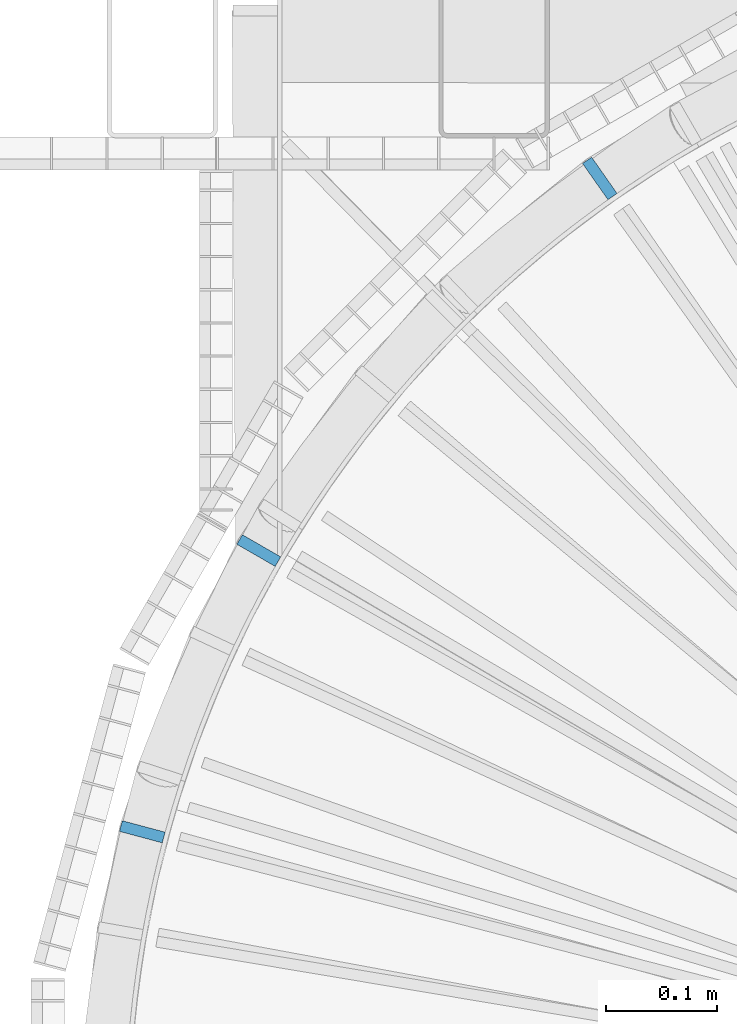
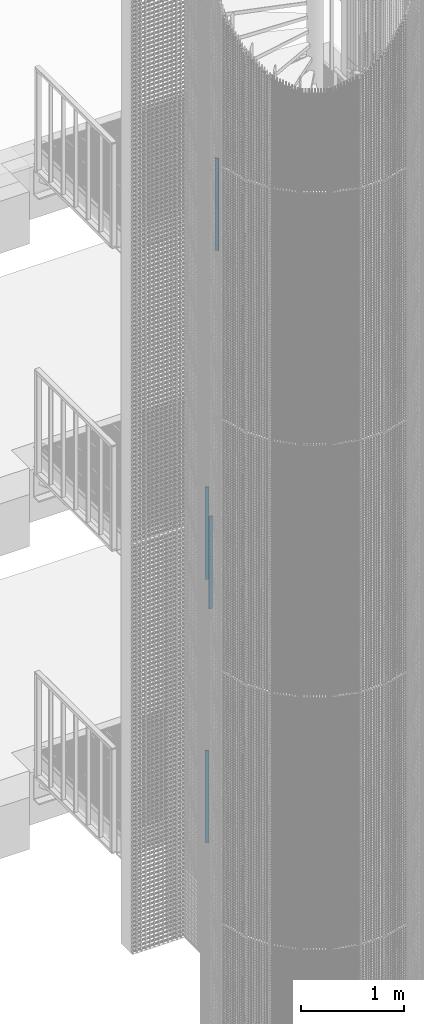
# One storey, part 44 of 1148: 4 columns, 4 elements without a shape of their own.
"""IFC2X3 building model written with IfcOpenShell, lengths in millimetres."""

from ifc_helpers import new_model, si_unit, frame, origin_with_axes, origin_2d_with_axis, place, context, subcontext, project, spatial, rectangle, extrude, material, type_object, element, aggregate, save


model = new_model("IFC2X3")

# Units and contexts
model_context = context("Model", 3, precision=1e-05, world=origin_with_axes())
body_context = subcontext(model_context, "Body", "Model", "MODEL_VIEW")
ifc_project = project(units=[si_unit("LENGTHUNIT", "METRE", prefix="MILLI"), si_unit("AREAUNIT", "SQUARE_METRE"), si_unit("VOLUMEUNIT", "CUBIC_METRE"), si_unit("MASSUNIT", "GRAM", prefix="KILO"), si_unit("TIMEUNIT", "SECOND"), si_unit("PLANEANGLEUNIT", "RADIAN"), si_unit("SOLIDANGLEUNIT", "STERADIAN"), si_unit("THERMODYNAMICTEMPERATUREUNIT", "DEGREE_CELSIUS"), si_unit("LUMINOUSINTENSITYUNIT", "LUMEN")], contexts=[model_context])

# Site, building, storey
site_placement = place(None, origin_with_axes())
site = spatial("IfcSite", under=ifc_project, at=site_placement, Name="Undefined", CompositionType="ELEMENT")
building_placement = place(site_placement, origin_with_axes())
building = spatial("IfcBuilding", under=site, at=building_placement, Name="Undefined", CompositionType="ELEMENT")
storey_placement = place(building_placement, origin_with_axes())
storey = spatial("IfcBuildingStorey", under=building, at=storey_placement, Name="Undefined", CompositionType="ELEMENT", Elevation=0.0)

# Assembly, column
assembly_1_placement = place(storey_placement, origin_with_axes())
assembly_1 = element("IfcElementAssembly", 1, at=assembly_1_placement, inside=storey, Name="MONTANT", AssemblyPlace="NOTDEFINED", PredefinedType="NOTDEFINED")
ifc_material = material(Name="STEEL/S235JR")
column_type = type_object("IfcColumnType", Name="PL10*40", PredefinedType="NOTDEFINED")
column_1_placement = place(assembly_1_placement, frame((20995.4504360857, 863.38625468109, 13220.4), z_axis=(0.0, 0.0, 1.0), x_axis=(0.573576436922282, -0.819152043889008, 0.0)))
column_1 = element("IfcColumn", 2, at=column_1_placement, type_object=column_type, material=ifc_material, Name="MONTANT", context=body_context, shape_type="SweptSolid", body=[
    extrude(rectangle(XDim=10.0, YDim=40.0, at=origin_2d_with_axis()), frame((0.0, 0.0, 1100.0), z_axis=(0.0, 0.0, -1.0), x_axis=(0.0, 1.0, 0.0)), (0.0, 0.0, 1.0), 1100.0),
])
aggregate(assembly_1, [column_1])

assembly_2_placement = place(storey_placement, origin_with_axes())
assembly_2 = element("IfcElementAssembly", 3, at=assembly_2_placement, inside=storey, Name="MONTANT", AssemblyPlace="NOTDEFINED", PredefinedType="NOTDEFINED")
column_2_placement = place(assembly_2_placement, frame((20687.2092244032, 527.000000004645, 9620.40000000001), z_axis=(0.0, 0.0, 1.0), x_axis=(0.866025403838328, -0.49999999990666, 0.0)))
column_2 = element("IfcColumn", 4, at=column_2_placement, type_object=column_type, material=ifc_material, Name="MONTANT", context=body_context, shape_type="SweptSolid", body=[
    extrude(rectangle(XDim=10.0, YDim=40.0, at=origin_2d_with_axis()), frame((0.0, 0.0, 1100.0), z_axis=(0.0, 0.0, -1.0), x_axis=(0.0, 1.0, 0.0)), (0.0, 0.0, 1.0), 1100.0),
])
aggregate(assembly_2, [column_2])

assembly_3_placement = place(storey_placement, origin_with_axes())
assembly_3 = element("IfcElementAssembly", 5, at=assembly_3_placement, inside=storey, Name="MONTANT", AssemblyPlace="NOTDEFINED", PredefinedType="NOTDEFINED")
column_3_placement = place(assembly_3_placement, frame((20581.9141790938, 272.795273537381, 9463.88000000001), z_axis=(0.0, 0.0, 1.0), x_axis=(0.965925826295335, -0.258819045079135, 0.0)))
column_3 = element("IfcColumn", 6, at=column_3_placement, type_object=column_type, material=ifc_material, Name="MONTANT", context=body_context, shape_type="SweptSolid", body=[
    extrude(rectangle(XDim=10.0, YDim=40.0, at=origin_2d_with_axis()), frame((0.0, 0.0, 1100.0), z_axis=(0.0, 0.0, -1.0), x_axis=(0.0, 1.0, 0.0)), (0.0, 0.0, 1.0), 1100.0),
])
aggregate(assembly_3, [column_3])

assembly_4_placement = place(storey_placement, origin_with_axes())
assembly_4 = element("IfcElementAssembly", 7, at=assembly_4_placement, inside=storey, Name="MONTANT", AssemblyPlace="NOTDEFINED", PredefinedType="NOTDEFINED")
column_4_placement = place(assembly_4_placement, frame((20687.2092244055, 527.000000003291, 6489.84000000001), z_axis=(0.0, 0.0, 1.0), x_axis=(0.866025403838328, -0.49999999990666, 0.0)))
column_4 = element("IfcColumn", 8, at=column_4_placement, type_object=column_type, material=ifc_material, Name="MONTANT", context=body_context, shape_type="SweptSolid", body=[
    extrude(rectangle(XDim=10.0, YDim=40.0, at=origin_2d_with_axis()), frame((0.0, 0.0, 1100.0), z_axis=(0.0, 0.0, -1.0), x_axis=(0.0, 1.0, 0.0)), (0.0, 0.0, 1.0), 1100.0),
])
aggregate(assembly_4, [column_4])

save(model, "model.ifc")
